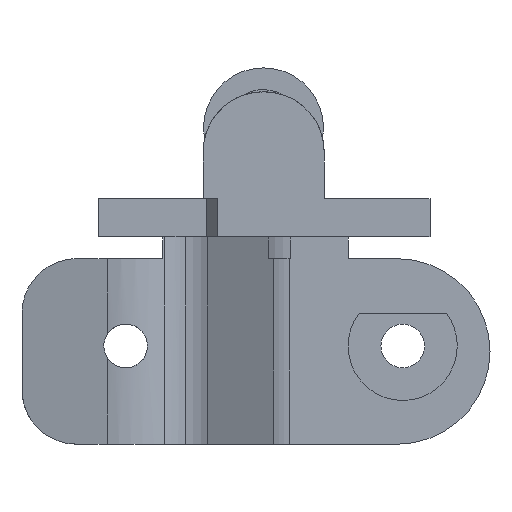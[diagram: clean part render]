
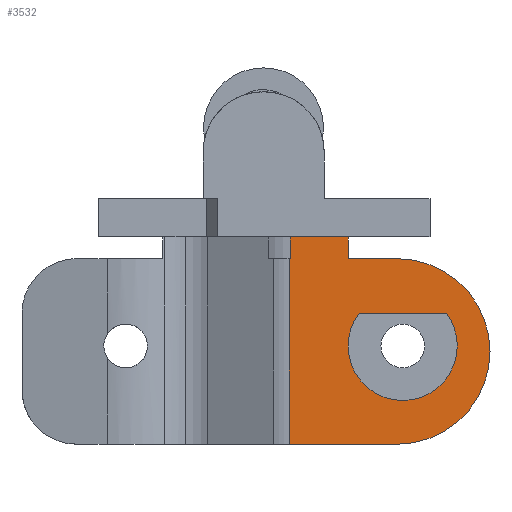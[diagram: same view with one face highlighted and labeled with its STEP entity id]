
A CAD part, left-side view. The second image highlights one B-rep face of the part: STEP entity #3532.
In plain terms, the highlighted planar face has unit normal (-1, 0, 0).
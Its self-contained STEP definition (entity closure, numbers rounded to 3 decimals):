
#21 = LINE ( 'NONE', #62, #61 ) ;
#48 = FACE_OUTER_BOUND ( 'NONE', #3543, .T. ) ;
#49 = FACE_BOUND ( 'NONE', #3534, .T. ) ;
#50 = PLANE ( 'NONE',  #59 ) ;
#59 = AXIS2_PLACEMENT_3D ( 'NONE', #132, #131, #130 ) ;
#60 = DIRECTION ( 'NONE',  ( 0., 0., 1. ) ) ;
#61 = VECTOR ( 'NONE', #60, 1000. ) ;
#62 = CARTESIAN_POINT ( 'NONE',  ( 179.9, 119.515, 0.7 ) ) ;
#88 = CARTESIAN_POINT ( 'NONE',  ( 179.9, 119.515, 0.7 ) ) ;
#91 = CARTESIAN_POINT ( 'NONE',  ( 179.9, 136.1, 0.7 ) ) ;
#92 = LINE ( 'NONE', #91, #128 ) ;
#127 = DIRECTION ( 'NONE',  ( 0., 1., 0. ) ) ;
#128 = VECTOR ( 'NONE', #127, 1000. ) ;
#130 = DIRECTION ( 'NONE',  ( 0., 1., 0. ) ) ;
#131 = DIRECTION ( 'NONE',  ( 1., 0., 0. ) ) ;
#132 = CARTESIAN_POINT ( 'NONE',  ( 179.9, 101.2, -18.3 ) ) ;
#1402 = CARTESIAN_POINT ( 'NONE',  ( 179.9, 114.2, -9.3 ) ) ;
#1444 = DIRECTION ( 'NONE',  ( 0., 1., 0. ) ) ;
#1445 = DIRECTION ( 'NONE',  ( -1., 0., 0. ) ) ;
#1446 = CARTESIAN_POINT ( 'NONE',  ( 179.9, 109.2, -9.3 ) ) ;
#1447 = AXIS2_PLACEMENT_3D ( 'NONE', #1446, #1445, #1444 ) ;
#1451 = CIRCLE ( 'NONE', #1447, 5. ) ;
#1455 = CARTESIAN_POINT ( 'NONE',  ( 179.9, 105.2, -6.3 ) ) ;
#1465 = CARTESIAN_POINT ( 'NONE',  ( 179.9, 101.2, -9.8 ) ) ;
#1822 = CIRCLE ( 'NONE', #1934, 5. ) ;
#1837 = CARTESIAN_POINT ( 'NONE',  ( 179.9, 104.2, -9.3 ) ) ;
#1931 = DIRECTION ( 'NONE',  ( 0., 1., 0. ) ) ;
#1932 = DIRECTION ( 'NONE',  ( -1., 0., 0. ) ) ;
#1933 = CARTESIAN_POINT ( 'NONE',  ( 179.9, 109.2, -9.3 ) ) ;
#1934 = AXIS2_PLACEMENT_3D ( 'NONE', #1933, #1932, #1931 ) ;
#2002 = AXIS2_PLACEMENT_3D ( 'NONE', #2078, #2077, #2076 ) ;
#2028 = CIRCLE ( 'NONE', #2002, 8.5 ) ;
#2074 = CARTESIAN_POINT ( 'NONE',  ( 179.9, 109.7, -18.3 ) ) ;
#2076 = DIRECTION ( 'NONE',  ( 0., -1., 0. ) ) ;
#2077 = DIRECTION ( 'NONE',  ( 1., 0., 0. ) ) ;
#2078 = CARTESIAN_POINT ( 'NONE',  ( 179.9, 109.7, -9.8 ) ) ;
#2804 = VERTEX_POINT ( 'NONE', #4746 ) ;
#2812 = EDGE_CURVE ( 'NONE', #5594, #2857, #4741, .T. ) ;
#2819 = EDGE_CURVE ( 'NONE', #2865, #5607, #4765, .T. ) ;
#2842 = EDGE_CURVE ( 'NONE', #2844, #2865, #4800, .T. ) ;
#2844 = VERTEX_POINT ( 'NONE', #4803 ) ;
#2857 = VERTEX_POINT ( 'NONE', #4785 ) ;
#2865 = VERTEX_POINT ( 'NONE', #4816 ) ;
#2887 = EDGE_CURVE ( 'NONE', #2915, #2935, #4894, .T. ) ;
#2902 = EDGE_CURVE ( 'NONE', #2935, #2804, #4919, .T. ) ;
#2915 = VERTEX_POINT ( 'NONE', #4907 ) ;
#2933 = EDGE_CURVE ( 'NONE', #2857, #5579, #4977, .T. ) ;
#2935 = VERTEX_POINT ( 'NONE', #4980 ) ;
#3044 = EDGE_CURVE ( 'NONE', #5843, #2915, #5174, .T. ) ;
#3414 = ORIENTED_EDGE ( 'NONE', *, *, #3044, .F. ) ;
#3423 = ORIENTED_EDGE ( 'NONE', *, *, #5599, .F. ) ;
#3428 = ORIENTED_EDGE ( 'NONE', *, *, #3500, .F. ) ;
#3433 = EDGE_CURVE ( 'NONE', #3442, #2844, #6777, .T. ) ;
#3442 = VERTEX_POINT ( 'NONE', #6833 ) ;
#3498 = ORIENTED_EDGE ( 'NONE', *, *, #3533, .T. ) ;
#3500 = EDGE_CURVE ( 'NONE', #2804, #3542, #21, .T. ) ;
#3503 = ORIENTED_EDGE ( 'NONE', *, *, #2819, .F. ) ;
#3505 = ORIENTED_EDGE ( 'NONE', *, *, #2902, .F. ) ;
#3515 = ORIENTED_EDGE ( 'NONE', *, *, #2887, .F. ) ;
#3520 = ORIENTED_EDGE ( 'NONE', *, *, #5841, .F. ) ;
#3532 = ADVANCED_FACE ( 'NONE', ( #49, #48 ), #50, .F. ) ;
#3533 = EDGE_CURVE ( 'NONE', #3442, #3542, #92, .T. ) ;
#3534 = EDGE_LOOP ( 'NONE', ( #3537, #3423, #3535, #3541 ) ) ;
#3535 = ORIENTED_EDGE ( 'NONE', *, *, #5783, .F. ) ;
#3537 = ORIENTED_EDGE ( 'NONE', *, *, #2812, .F. ) ;
#3540 = ORIENTED_EDGE ( 'NONE', *, *, #3433, .F. ) ;
#3541 = ORIENTED_EDGE ( 'NONE', *, *, #2933, .F. ) ;
#3542 = VERTEX_POINT ( 'NONE', #88 ) ;
#3543 = EDGE_LOOP ( 'NONE', ( #3540, #3498, #3428, #3505, #3515, #3414, #3520, #3503, #3608 ) ) ;
#3608 = ORIENTED_EDGE ( 'NONE', *, *, #2842, .F. ) ;
#4740 = CARTESIAN_POINT ( 'NONE',  ( 179.9, 101.2, -6.3 ) ) ;
#4741 = LINE ( 'NONE', #4740, #4779 ) ;
#4746 = CARTESIAN_POINT ( 'NONE',  ( 179.9, 119.515, -1.3 ) ) ;
#4762 = DIRECTION ( 'NONE',  ( 0., -1., 0. ) ) ;
#4763 = DIRECTION ( 'NONE',  ( 1., 0., 0. ) ) ;
#4764 = AXIS2_PLACEMENT_3D ( 'NONE', #4772, #4763, #4762 ) ;
#4765 = CIRCLE ( 'NONE', #4764, 8.5 ) ;
#4772 = CARTESIAN_POINT ( 'NONE',  ( 179.9, 109.7, -9.8 ) ) ;
#4778 = DIRECTION ( 'NONE',  ( 0., 1., 0. ) ) ;
#4779 = VECTOR ( 'NONE', #4778, 1000. ) ;
#4785 = CARTESIAN_POINT ( 'NONE',  ( 179.9, 113.2, -6.3 ) ) ;
#4797 = DIRECTION ( 'NONE',  ( 0., -1., 0. ) ) ;
#4798 = VECTOR ( 'NONE', #4797, 1000. ) ;
#4799 = CARTESIAN_POINT ( 'NONE',  ( 179.9, 101.2, -1.3 ) ) ;
#4800 = LINE ( 'NONE', #4799, #4798 ) ;
#4803 = CARTESIAN_POINT ( 'NONE',  ( 179.9, 114.2, -1.3 ) ) ;
#4816 = CARTESIAN_POINT ( 'NONE',  ( 179.9, 109.7, -1.3 ) ) ;
#4850 = VECTOR ( 'NONE', #4888, 1000. ) ;
#4868 = CARTESIAN_POINT ( 'NONE',  ( 179.9, 119.616, -18.3 ) ) ;
#4888 = DIRECTION ( 'NONE',  ( 0., 0., 1. ) ) ;
#4894 = LINE ( 'NONE', #4868, #4850 ) ;
#4907 = CARTESIAN_POINT ( 'NONE',  ( 179.9, 119.616, -18.3 ) ) ;
#4914 = VECTOR ( 'NONE', #4924, 1000. ) ;
#4919 = LINE ( 'NONE', #4925, #4914 ) ;
#4924 = DIRECTION ( 'NONE',  ( 0., -1., 0. ) ) ;
#4925 = CARTESIAN_POINT ( 'NONE',  ( 179.9, 101.2, -1.3 ) ) ;
#4965 = DIRECTION ( 'NONE',  ( 0., 1., 0. ) ) ;
#4966 = DIRECTION ( 'NONE',  ( -1., 0., 0. ) ) ;
#4967 = AXIS2_PLACEMENT_3D ( 'NONE', #4978, #4966, #4965 ) ;
#4977 = CIRCLE ( 'NONE', #4967, 5. ) ;
#4978 = CARTESIAN_POINT ( 'NONE',  ( 179.9, 109.2, -9.3 ) ) ;
#4980 = CARTESIAN_POINT ( 'NONE',  ( 179.9, 119.616, -1.3 ) ) ;
#5166 = DIRECTION ( 'NONE',  ( 0., 1., 0. ) ) ;
#5167 = VECTOR ( 'NONE', #5166, 1000. ) ;
#5168 = CARTESIAN_POINT ( 'NONE',  ( 179.9, 101.2, -18.3 ) ) ;
#5174 = LINE ( 'NONE', #5168, #5167 ) ;
#5579 = VERTEX_POINT ( 'NONE', #1402 ) ;
#5594 = VERTEX_POINT ( 'NONE', #1455 ) ;
#5599 = EDGE_CURVE ( 'NONE', #5744, #5594, #1451, .T. ) ;
#5607 = VERTEX_POINT ( 'NONE', #1465 ) ;
#5744 = VERTEX_POINT ( 'NONE', #1837 ) ;
#5783 = EDGE_CURVE ( 'NONE', #5579, #5744, #1822, .T. ) ;
#5841 = EDGE_CURVE ( 'NONE', #5607, #5843, #2028, .T. ) ;
#5843 = VERTEX_POINT ( 'NONE', #2074 ) ;
#6777 = LINE ( 'NONE', #6831, #6830 ) ;
#6829 = DIRECTION ( 'NONE',  ( 0., 0., -1. ) ) ;
#6830 = VECTOR ( 'NONE', #6829, 1000. ) ;
#6831 = CARTESIAN_POINT ( 'NONE',  ( 179.9, 114.2, -18.3 ) ) ;
#6833 = CARTESIAN_POINT ( 'NONE',  ( 179.9, 114.2, 0.7 ) ) ;
